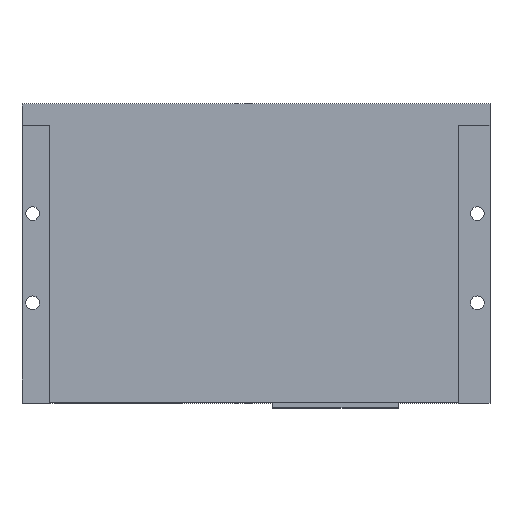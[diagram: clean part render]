
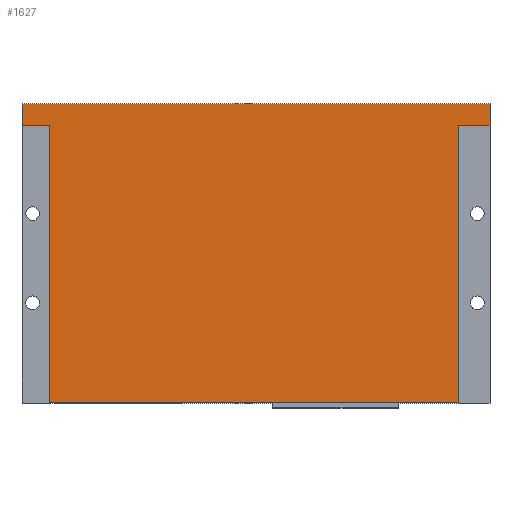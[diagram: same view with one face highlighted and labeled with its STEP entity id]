
A CAD part, top view. The second image highlights one B-rep face of the part: STEP entity #1627.
In plain terms, the highlighted planar face has unit normal (0, 0, 1).
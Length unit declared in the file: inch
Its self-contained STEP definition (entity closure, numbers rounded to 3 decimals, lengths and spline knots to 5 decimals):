
#331=DIRECTION('',(1.,0.,0.));
#332=VECTOR('',#331,0.2705);
#333=CARTESIAN_POINT('',(-2.325,1.2725,1.3));
#334=LINE('',#333,#332);
#335=DIRECTION('',(0.,-1.,0.));
#336=VECTOR('',#335,0.2125);
#337=CARTESIAN_POINT('',(-2.325,1.485,1.3));
#338=LINE('',#337,#336);
#339=DIRECTION('',(-1.,0.,0.));
#340=VECTOR('',#339,4.65);
#341=CARTESIAN_POINT('',(2.325,1.485,1.3));
#342=LINE('',#341,#340);
#343=DIRECTION('',(0.,1.,0.));
#344=VECTOR('',#343,0.2125);
#345=CARTESIAN_POINT('',(2.325,1.2725,1.3));
#346=LINE('',#345,#344);
#347=DIRECTION('',(1.,0.,0.));
#348=VECTOR('',#347,0.3105);
#349=CARTESIAN_POINT('',(2.0145,1.2725,1.3));
#350=LINE('',#349,#348);
#351=DIRECTION('',(0.,-1.,0.));
#352=VECTOR('',#351,2.7575);
#353=CARTESIAN_POINT('',(-2.0545,1.2725,1.3));
#354=LINE('',#353,#352);
#405=DIRECTION('',(0.,-1.,0.));
#406=VECTOR('',#405,2.7575);
#407=CARTESIAN_POINT('',(2.0145,1.2725,1.3));
#408=LINE('',#407,#406);
#457=DIRECTION('',(-1.,0.,0.));
#458=VECTOR('',#457,4.069);
#459=CARTESIAN_POINT('',(2.0145,-1.485,1.3));
#460=LINE('',#459,#458);
#1207=CARTESIAN_POINT('',(2.325,1.485,1.3));
#1208=VERTEX_POINT('',#1207);
#1209=CARTESIAN_POINT('',(-2.325,1.485,1.3));
#1210=VERTEX_POINT('',#1209);
#1211=CARTESIAN_POINT('',(-2.325,1.2725,1.3));
#1212=VERTEX_POINT('',#1211);
#1223=CARTESIAN_POINT('',(2.0145,1.2725,1.3));
#1224=VERTEX_POINT('',#1223);
#1225=CARTESIAN_POINT('',(2.325,1.2725,1.3));
#1226=VERTEX_POINT('',#1225);
#1235=CARTESIAN_POINT('',(-2.0545,1.2725,1.3));
#1236=VERTEX_POINT('',#1235);
#1237=CARTESIAN_POINT('',(-2.0545,-1.485,1.3));
#1238=VERTEX_POINT('',#1237);
#1239=CARTESIAN_POINT('',(2.0145,-1.485,1.3));
#1240=VERTEX_POINT('',#1239);
#1607=CARTESIAN_POINT('',(0.,0.,1.3));
#1608=DIRECTION('',(0.,0.,1.));
#1609=DIRECTION('',(1.,0.,0.));
#1610=AXIS2_PLACEMENT_3D('',#1607,#1608,#1609);
#1611=PLANE('',#1610);
#1612=ORIENTED_EDGE('',*,*,#1544,.F.);
#1613=ORIENTED_EDGE('',*,*,#1601,.F.);
#1614=ORIENTED_EDGE('',*,*,#1502,.F.);
#1616=ORIENTED_EDGE('',*,*,#1615,.F.);
#1618=ORIENTED_EDGE('',*,*,#1617,.F.);
#1620=ORIENTED_EDGE('',*,*,#1619,.T.);
#1622=ORIENTED_EDGE('',*,*,#1621,.T.);
#1624=ORIENTED_EDGE('',*,*,#1623,.F.);
#1625=EDGE_LOOP('',(#1612,#1613,#1614,#1616,#1618,#1620,#1622,#1624));
#1626=FACE_OUTER_BOUND('',#1625,.F.);
#1627=ADVANCED_FACE('',(#1626),#1611,.T.);
#1502=EDGE_CURVE('',#1208,#1210,#342,.T.);
#1544=EDGE_CURVE('',#1212,#1236,#334,.T.);
#1601=EDGE_CURVE('',#1210,#1212,#338,.T.);
#1615=EDGE_CURVE('',#1226,#1208,#346,.T.);
#1617=EDGE_CURVE('',#1224,#1226,#350,.T.);
#1619=EDGE_CURVE('',#1224,#1240,#408,.T.);
#1621=EDGE_CURVE('',#1240,#1238,#460,.T.);
#1623=EDGE_CURVE('',#1236,#1238,#354,.T.);
